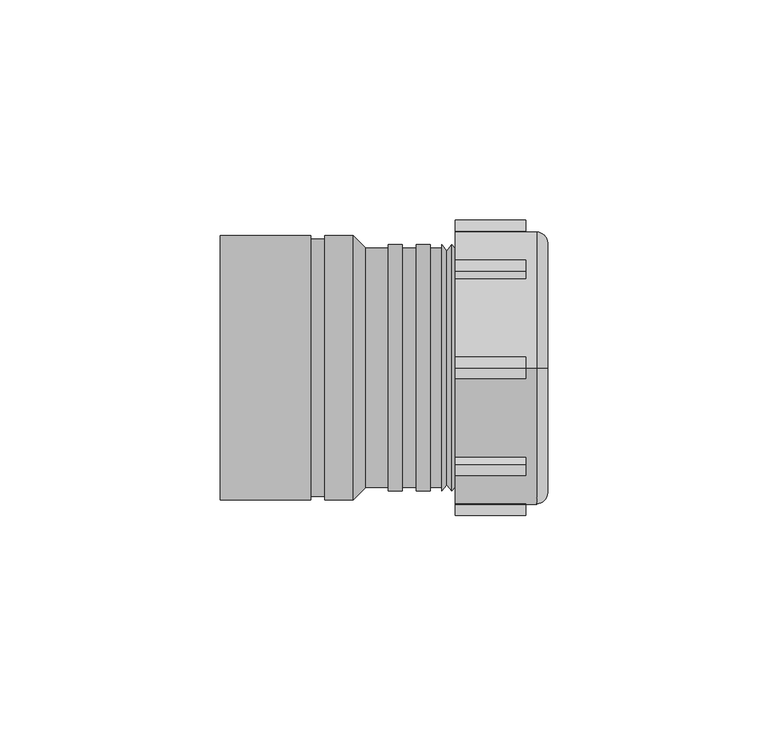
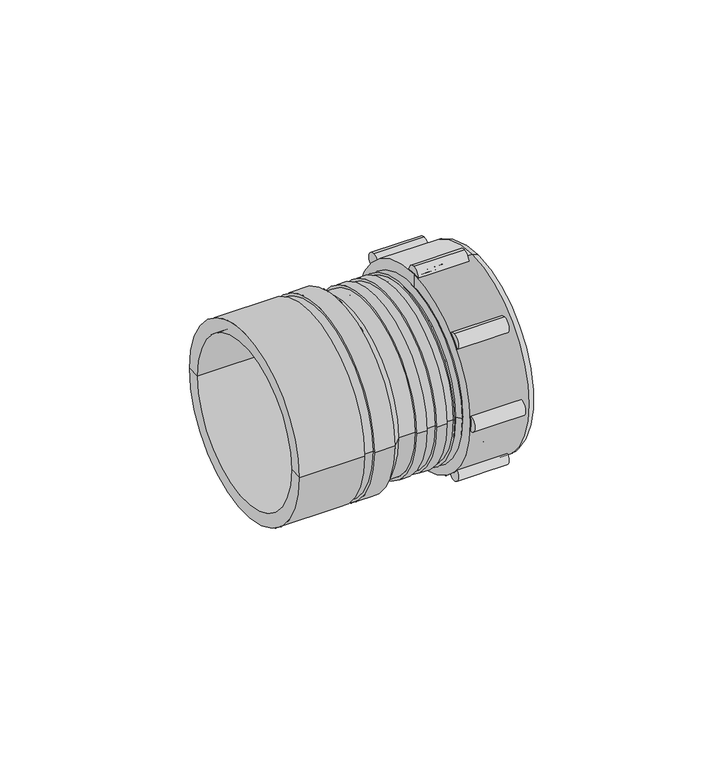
"""IFC4 building model written with IfcOpenShell, lengths in millimetres: pipe fitting geometry, Durapipe_PipeFitting_VulcatheneMechanical_ReducingCoupler_W39 : W3931_3Inxh x 1.5Inch_76mm x 38mm."""

from ifc_helpers import new_model, si_unit, point, frame, frame_2d, origin, place, context, project, spatial, polyline, circle_curve, ellipse_curve, trimmed, segment, composite_curve, outline, extrude, source, transform, mapped, element, save
from ifc_brep_helpers import plane_surface, cylinder_surface, revolved_surface, advanced_brep


def pipe_fitting_6c33db91(model_context):
    return source(origin(), model_context, "Body", "SolidModel", [
        advanced_brep(
        [(32.9, 18.5969083, 18.5969083), (32.9, 17.1119841, 17.1119841), (32.9, -17.1119841, -17.1119841), (32.9, -18.5969083, -18.5969083), (27.9, 18.3140656, 18.3140656), (27.9, -18.3140656, -18.3140656), (26.4, 18.1019336, 18.1019336), (27.9, 18.1019336, 18.1019336), (27.9, -18.1019336, -18.1019336), (26.4, -18.1019336, -18.1019336), (26.4, -17.1119841, -17.1119841), (26.4, 17.1119841, 17.1119841), (28.4, -17.1119841, -17.1119841), (28.4, 17.1119841, 17.1119841), (28.4, -16.5462987, -16.5462987), (28.4, 16.5462987, 16.5462987), (30.7, 17.1119841, 17.1119841), (30.7, 16.5462987, 16.5462987), (30.7, -16.5462987, -16.5462987), (30.7, -17.1119841, -17.1119841)],
        [
            (0, 1),
            (1, 2, circle_curve(frame((32.9, 0.0, 0.0), z_axis=(-1.0, 0.0, 0.0), x_axis=(0.0, -0.7071067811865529, -0.7071067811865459)), 24.2)),
            (2, 3),
            (3, 0, circle_curve(frame((32.9, 0.0, 0.0), z_axis=(1.0, 0.0, 0.0), x_axis=(0.0, -0.7071067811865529, -0.7071067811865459)), 26.3)),
            (2, 1, circle_curve(frame((32.9, 0.0, 0.0), z_axis=(-1.0, 0.0, 0.0), x_axis=(0.0, -0.7071067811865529, -0.7071067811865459)), 24.2)),
            (0, 3, circle_curve(frame((32.9, 0.0, 0.0), z_axis=(1.0, 0.0, 0.0), x_axis=(0.0, -0.7071067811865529, -0.7071067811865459)), 26.3)),
            (4, 0),
            (3, 5),
            (5, 4, circle_curve(frame((27.9, 0.0, 0.0), z_axis=(1.0, 0.0, 0.0), x_axis=(0.0, -0.7071067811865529, -0.7071067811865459)), 25.9)),
            (4, 5, circle_curve(frame((27.9, 0.0, 0.0), z_axis=(1.0, 0.0, 0.0), x_axis=(0.0, -0.7071067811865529, -0.7071067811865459)), 25.9)),
            (6, 7),
            (7, 8, circle_curve(frame((27.9, 0.0, 0.0), z_axis=(-1.0, 0.0, 0.0), x_axis=(0.0, -0.7071067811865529, -0.7071067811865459)), 25.6)),
            (8, 9),
            (9, 6, circle_curve(frame((26.4, 0.0, 0.0), z_axis=(1.0, 0.0, 0.0), x_axis=(0.0, -0.7071067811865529, -0.7071067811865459)), 25.6)),
            (8, 7, circle_curve(frame((27.9, 0.0, 0.0), z_axis=(-1.0, 0.0, 0.0), x_axis=(0.0, -0.7071067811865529, -0.7071067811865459)), 25.6)),
            (6, 9, circle_curve(frame((26.4, 0.0, 0.0), z_axis=(1.0, 0.0, 0.0), x_axis=(0.0, -0.7071067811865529, -0.7071067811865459)), 25.6)),
            (9, 10),
            (10, 11, circle_curve(frame((26.4, 0.0, 0.0), z_axis=(1.0, 0.0, 0.0), x_axis=(0.0, -0.7071067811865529, -0.7071067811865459)), 24.2)),
            (11, 6),
            (11, 10, circle_curve(frame((26.4, 0.0, 0.0), z_axis=(1.0, 0.0, 0.0), x_axis=(0.0, -0.7071067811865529, -0.7071067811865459)), 24.2)),
            (10, 12),
            (12, 13, circle_curve(frame((28.4, 0.0, 0.0), z_axis=(1.0, 0.0, 0.0), x_axis=(0.0, -0.7071067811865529, -0.7071067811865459)), 24.2)),
            (13, 11),
            (13, 12, circle_curve(frame((28.4, 0.0, 0.0), z_axis=(1.0, 0.0, 0.0), x_axis=(0.0, -0.7071067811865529, -0.7071067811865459)), 24.2)),
            (12, 14),
            (14, 15, circle_curve(frame((28.4, 0.0, 0.0), z_axis=(1.0, 0.0, 0.0), x_axis=(0.0, -0.7071067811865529, -0.7071067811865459)), 23.4)),
            (15, 13),
            (15, 14, circle_curve(frame((28.4, 0.0, 0.0), z_axis=(1.0, 0.0, 0.0), x_axis=(0.0, -0.7071067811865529, -0.7071067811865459)), 23.4)),
            (16, 17),
            (17, 18, circle_curve(frame((30.7, 0.0, 0.0), z_axis=(-1.0, 0.0, 0.0), x_axis=(0.0, -0.7071067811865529, -0.7071067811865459)), 23.4)),
            (18, 19),
            (19, 16, circle_curve(frame((30.7, 0.0, 0.0), z_axis=(1.0, 0.0, 0.0), x_axis=(0.0, -0.7071067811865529, -0.7071067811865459)), 24.2)),
            (18, 17, circle_curve(frame((30.7, 0.0, 0.0), z_axis=(-1.0, 0.0, 0.0), x_axis=(0.0, -0.7071067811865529, -0.7071067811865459)), 23.4)),
            (16, 19, circle_curve(frame((30.7, 0.0, 0.0), z_axis=(1.0, 0.0, 0.0), x_axis=(0.0, -0.7071067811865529, -0.7071067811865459)), 24.2)),
            (1, 16),
            (19, 2),
            (14, 18),
            (17, 15),
            (5, 8),
            (7, 4),
        ],
        [
            plane_surface(frame((32.9, 0.0, 0.0), z_axis=(1.0, 0.0, 0.0), x_axis=(0.0, -0.707106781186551, -0.707106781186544))),
            revolved_surface(polyline([(32.9, -18.5969083, -18.5969083), (27.9, -18.3140656, -18.3140656)]), (37.9, 0.0, 0.0), (-1.0000000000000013, 0.0, 0.0)),
            cylinder_surface(frame((24.3293443, 0.0, 0.0), z_axis=(-1.0000000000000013, 0.0, 0.0), x_axis=(0.0, -0.7071067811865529, -0.7071067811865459)), 25.6),
            plane_surface(frame((26.4, 0.0, 0.0), z_axis=(-1.0, 0.0, 0.0), x_axis=(0.0, -0.707106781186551, -0.707106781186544))),
            revolved_surface(polyline([(26.400000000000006, -17.11198410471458, -17.11198410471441), (28.400000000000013, -17.11198410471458, -17.11198410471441)]), (22.907009, 0.0, 0.0), (-1.0000000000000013, 0.0, 0.0)),
            plane_surface(frame((28.4, 0.0, 0.0), z_axis=(-1.0, 0.0, 0.0), x_axis=(0.0, -0.707106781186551, -0.707106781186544))),
            plane_surface(frame((30.7, 0.0, 0.0), z_axis=(1.0, 0.0, 0.0), x_axis=(0.0, -0.707106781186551, -0.707106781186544))),
            revolved_surface(polyline([(30.69999999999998, -17.11198410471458, -17.11198410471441), (32.899999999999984, -17.11198410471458, -17.11198410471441)]), (37.9, 0.0, 0.0), (-1.0000000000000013, 0.0, 0.0)),
            revolved_surface(polyline([(28.399999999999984, -16.546298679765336, -16.546298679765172), (30.69999999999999, -16.546298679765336, -16.546298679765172)]), (34.4661924, 0.0, 0.0), (-1.0000000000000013, 0.0, 0.0)),
            plane_surface(frame((27.9, 0.0, 0.0), z_axis=(-1.0, 0.0, 0.0), x_axis=(0.0, -0.707106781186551, -0.707106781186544))),
        ],
        [
            (0, [[1, 2, 3, 4]]),
            (0, [[5, -1, 6, -3]]),
            (1, [[7, -4, 8, 9]]),
            (1, [[-8, -6, -7, 10]]),
            (2, [[11, 12, 13, 14]]),
            (2, [[15, -11, 16, -13]]),
            (3, [[17, 18, 19, -14]]),
            (3, [[-19, 20, -17, -16]]),
            (4, [[-18, 21, 22, 23]]),
            (4, [[24, -21, -20, -23]]),
            (5, [[25, 26, 27, -22]]),
            (5, [[-27, 28, -25, -24]]),
            (6, [[29, 30, 31, 32]]),
            (6, [[-31, 33, -29, 34]]),
            (7, [[35, -32, 36, -2]]),
            (7, [[-36, -34, -35, -5]]),
            (8, [[-26, 37, -30, 38]]),
            (8, [[-33, -37, -28, -38]]),
            (9, [[39, -12, 40, -9]]),
            (9, [[-40, -15, -39, -10]]),
        ],
    ),
        advanced_brep(
        [(16.2, 0.0, 31.0), (34.6, 0.0, 31.0), (34.6, 0.0, -31.0), (16.2, 0.0, -31.0), (16.2, 0.0, 26.0), (16.2, 0.0, -26.0), (37.1, 0.0, 28.5), (37.1, 0.0, 24.0), (37.1, 0.0, -24.0), (37.1, 0.0, -28.5), (32.9, 0.0, 26.0), (32.9, 0.0, -26.0), (32.9, 0.0, 24.0), (32.9, 0.0, -24.0)],
        [
            (0, 1),
            (1, 2, circle_curve(frame((34.6, 0.0, 0.0), z_axis=(-1.0, 0.0, 0.0), x_axis=(0.0, 0.0, -1.0000000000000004)), 31.0)),
            (2, 3),
            (3, 0, circle_curve(frame((16.2, 0.0, 0.0), z_axis=(1.0, 0.0, 0.0), x_axis=(0.0, 0.0, -1.0000000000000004)), 31.0)),
            (2, 1, circle_curve(frame((34.6, 0.0, 0.0), z_axis=(-1.0, 0.0, 0.0), x_axis=(0.0, 0.0, -1.0000000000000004)), 31.0)),
            (0, 3, circle_curve(frame((16.2, 0.0, 0.0), z_axis=(1.0, 0.0, 0.0), x_axis=(0.0, 0.0, -1.0000000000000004)), 31.0)),
            (4, 0),
            (3, 5),
            (5, 4, circle_curve(frame((16.2, 0.0, 0.0), z_axis=(1.0, 0.0, 0.0), x_axis=(0.0, 0.0, -1.0000000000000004)), 26.0)),
            (4, 5, circle_curve(frame((16.2, 0.0, 0.0), z_axis=(1.0, 0.0, 0.0), x_axis=(0.0, 0.0, -1.0000000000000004)), 26.0)),
            (6, 7),
            (7, 8, circle_curve(frame((37.1, 0.0, 0.0), z_axis=(-1.0, 0.0, 0.0), x_axis=(0.0, 0.0, -1.0000000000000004)), 24.0)),
            (8, 9),
            (9, 6, circle_curve(frame((37.1, 0.0, 0.0), z_axis=(1.0, 0.0, 0.0), x_axis=(0.0, 0.0, -1.0000000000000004)), 28.5)),
            (8, 7, circle_curve(frame((37.1, 0.0, 0.0), z_axis=(-1.0, 0.0, 0.0), x_axis=(0.0, 0.0, -1.0000000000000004)), 24.0)),
            (6, 9, circle_curve(frame((37.1, 0.0, 0.0), z_axis=(1.0, 0.0, 0.0), x_axis=(0.0, 0.0, -1.0000000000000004)), 28.5)),
            (1, 6, circle_curve(frame((34.6, 0.0, 28.5), z_axis=(0.0, 1.0000000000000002, 0.0), x_axis=(1.0000000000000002, 0.0, 0.0)), 2.5)),
            (9, 2, circle_curve(frame((34.6, 0.0, -28.5), z_axis=(0.0, 1.0000000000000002, 0.0), x_axis=(1.0000000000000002, 0.0, 0.0)), 2.5)),
            (10, 4),
            (5, 11),
            (11, 10, circle_curve(frame((32.9, 0.0, 0.0), z_axis=(1.0, 0.0, 0.0), x_axis=(0.0, 0.0, -1.0000000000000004)), 26.0)),
            (10, 11, circle_curve(frame((32.9, 0.0, 0.0), z_axis=(1.0, 0.0, 0.0), x_axis=(0.0, 0.0, -1.0000000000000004)), 26.0)),
            (12, 10),
            (11, 13),
            (13, 12, circle_curve(frame((32.9, 0.0, 0.0), z_axis=(1.0, 0.0, 0.0), x_axis=(0.0, 0.0, -1.0000000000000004)), 24.0)),
            (12, 13, circle_curve(frame((32.9, 0.0, 0.0), z_axis=(1.0, 0.0, 0.0), x_axis=(0.0, 0.0, -1.0000000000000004)), 24.0)),
            (7, 12),
            (13, 8),
        ],
        [
            cylinder_surface(frame((1597.9018184, 0.0, 0.0), z_axis=(-1.0000000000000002, 0.0, 0.0), x_axis=(0.0, 0.0, -1.0000000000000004)), 31.0),
            plane_surface(frame((16.2, 0.0, 0.0), z_axis=(-1.0, 0.0, 0.0), x_axis=(0.0, 0.0, -1.0))),
            plane_surface(frame((37.1, 0.0, 0.0), z_axis=(1.0, 0.0, 0.0), x_axis=(0.0, 0.0, -1.0))),
            revolved_surface(trimmed(ellipse_curve(frame((34.6, 0.0, -28.5), z_axis=(0.0, 1.0000000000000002, 0.0), x_axis=(1.0000000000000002, 0.0, 0.0)), 2.5, 2.5), [point((37.1, 0.0, -28.5))], [point((34.6, 0.0, -31.0))], True, "CARTESIAN"), (1597.9018184, 0.0, 0.0), (-1.0000000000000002, 0.0, 0.0)),
            revolved_surface(polyline([(16.199999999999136, 0.0, -26.00000000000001), (32.89999999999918, 0.0, -26.00000000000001)]), (1597.9018184, 0.0, 0.0), (-1.0000000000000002, 0.0, 0.0)),
            plane_surface(frame((32.9, 0.0, 0.0), z_axis=(-1.0, 0.0, 0.0), x_axis=(0.0, 0.0, -1.0))),
            revolved_surface(polyline([(32.89999999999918, 0.0, -24.00000000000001), (37.099999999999, 0.0, -24.00000000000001)]), (1597.9018184, 0.0, 0.0), (-1.0000000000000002, 0.0, 0.0)),
        ],
        [
            (0, [[1, 2, 3, 4]]),
            (0, [[-3, 5, -1, 6]]),
            (1, [[7, -4, 8, 9]]),
            (1, [[-8, -6, -7, 10]]),
            (2, [[11, 12, 13, 14]]),
            (2, [[-13, 15, -11, 16]]),
            (3, [[17, -14, 18, -2]]),
            (3, [[-18, -16, -17, -5]]),
            (4, [[19, -9, 20, 21]]),
            (4, [[-20, -10, -19, 22]]),
            (5, [[23, -21, 24, 25]]),
            (5, [[-24, -22, -23, 26]]),
            (6, [[27, -25, 28, -12]]),
            (6, [[-28, -26, -27, -15]]),
        ],
    ),
        extrude(outline(composite_curve([segment(trimmed(circle_curve(frame_2d((-31.0, 0.0)), 2.5), [point((-31.0, 2.5))], [point((-31.0, -2.5))], False, "CARTESIAN"), True, "CONTINUOUS"), segment(trimmed(circle_curve(frame_2d((-31.0, 0.0)), 2.5), [point((-31.0, -2.5))], [point((-31.0, 2.5))], False, "CARTESIAN"), True, "CONTINUOUS")], self_intersect=False)), frame((16.2, 0.0, 0.0), z_axis=(1.0, 0.0, 0.0), x_axis=(0.0, 1.0, 0.0)), (0.0, 0.0, 1.0), 15.9),
        extrude(outline(composite_curve([segment(trimmed(circle_curve(frame_2d((-21.9203102, -21.9203102)), 2.5), [point((-21.9203102, -19.4203102))], [point((-21.9203102, -24.4203102))], False, "CARTESIAN"), True, "CONTINUOUS"), segment(trimmed(circle_curve(frame_2d((-21.9203102, -21.9203102)), 2.5), [point((-21.9203102, -24.4203102))], [point((-21.9203102, -19.4203102))], False, "CARTESIAN"), True, "CONTINUOUS")], self_intersect=False)), frame((16.2, 0.0, 0.0), z_axis=(1.0, 0.0, 0.0), x_axis=(0.0, 1.0, 0.0)), (0.0, 0.0, 1.0), 15.9),
        extrude(outline(composite_curve([segment(trimmed(circle_curve(frame_2d((0.0, -31.0)), 2.5), [point((0.0, -28.5))], [point((0.0, -33.5))], False, "CARTESIAN"), True, "CONTINUOUS"), segment(trimmed(circle_curve(frame_2d((0.0, -31.0)), 2.5), [point((0.0, -33.5))], [point((0.0, -28.5))], False, "CARTESIAN"), True, "CONTINUOUS")], self_intersect=False)), frame((16.2, 0.0, 0.0), z_axis=(1.0, 0.0, 0.0), x_axis=(0.0, 1.0, 0.0)), (0.0, 0.0, 1.0), 15.9),
        extrude(outline(composite_curve([segment(trimmed(circle_curve(frame_2d((21.9203102, -21.9203102)), 2.5), [point((21.9203102, -19.4203102))], [point((21.9203102, -24.4203102))], False, "CARTESIAN"), True, "CONTINUOUS"), segment(trimmed(circle_curve(frame_2d((21.9203102, -21.9203102)), 2.5), [point((21.9203102, -24.4203102))], [point((21.9203102, -19.4203102))], False, "CARTESIAN"), True, "CONTINUOUS")], self_intersect=False)), frame((16.2, 0.0, 0.0), z_axis=(1.0, 0.0, 0.0), x_axis=(0.0, 1.0, 0.0)), (0.0, 0.0, 1.0), 15.9),
        extrude(outline(composite_curve([segment(trimmed(circle_curve(frame_2d((31.0, 0.0)), 2.5), [point((31.0, 2.5))], [point((31.0, -2.5))], False, "CARTESIAN"), True, "CONTINUOUS"), segment(trimmed(circle_curve(frame_2d((31.0, 0.0)), 2.5), [point((31.0, -2.5))], [point((31.0, 2.5))], False, "CARTESIAN"), True, "CONTINUOUS")], self_intersect=False)), frame((16.2, 0.0, 0.0), z_axis=(1.0, 0.0, 0.0), x_axis=(0.0, 1.0, 0.0)), (0.0, 0.0, 1.0), 15.9),
        extrude(outline(composite_curve([segment(trimmed(circle_curve(frame_2d((21.9203102, 21.9203102)), 2.5), [point((21.9203102, 24.4203102))], [point((21.9203102, 19.4203102))], False, "CARTESIAN"), True, "CONTINUOUS"), segment(trimmed(circle_curve(frame_2d((21.9203102, 21.9203102)), 2.5), [point((21.9203102, 19.4203102))], [point((21.9203102, 24.4203102))], False, "CARTESIAN"), True, "CONTINUOUS")], self_intersect=False)), frame((16.2, 0.0, 0.0), z_axis=(1.0, 0.0, 0.0), x_axis=(0.0, 1.0, 0.0)), (0.0, 0.0, 1.0), 15.9),
        extrude(outline(composite_curve([segment(trimmed(circle_curve(frame_2d((0.0, 31.0)), 2.5), [point((0.0, 33.5))], [point((0.0, 28.5))], False, "CARTESIAN"), True, "CONTINUOUS"), segment(trimmed(circle_curve(frame_2d((0.0, 31.0)), 2.5), [point((0.0, 28.5))], [point((0.0, 33.5))], False, "CARTESIAN"), True, "CONTINUOUS")], self_intersect=False)), frame((16.2, 0.0, 0.0), z_axis=(1.0, 0.0, 0.0), x_axis=(0.0, 1.0, 0.0)), (0.0, 0.0, 1.0), 15.9),
        extrude(outline(composite_curve([segment(trimmed(circle_curve(frame_2d((-21.9203102, 21.9203102)), 2.5), [point((-21.9203102, 24.4203102))], [point((-21.9203102, 19.4203102))], False, "CARTESIAN"), True, "CONTINUOUS"), segment(trimmed(circle_curve(frame_2d((-21.9203102, 21.9203102)), 2.5), [point((-21.9203102, 19.4203102))], [point((-21.9203102, 24.4203102))], False, "CARTESIAN"), True, "CONTINUOUS")], self_intersect=False)), frame((16.2, 0.0, 0.0), z_axis=(1.0, 0.0, 0.0), x_axis=(0.0, 1.0, 0.0)), (0.0, 0.0, 1.0), 15.9),
        advanced_brep(
        [(16.15, -27.0170866, 0.0), (16.15, 27.0170866, 0.0), (16.15, 24.2697, 0.0), (16.15, -24.2697, 0.0), (15.375, -27.99, 0.0), (15.375, 27.99, 0.0), (14.2204545, -26.52, 0.0), (14.2204545, 26.52, 0.0), (13.0659091, -27.9693842, 0.0), (13.0659091, 27.9693842, 0.0), (13.0659091, -27.1693842, 0.0), (13.0659091, 27.1693842, 0.0), (10.525, -27.1693842, 0.0), (10.525, 27.1693842, 0.0), (10.525, -27.9908, 0.0), (10.525, 27.9908, 0.0), (7.35, -27.9908, 0.0), (7.35, 27.9908, 0.0), (7.35, -27.1908, 0.0), (7.35, 27.1908, 0.0), (4.175, -27.1908, 0.0), (4.175, 27.1908, 0.0), (4.175, -27.9908, 0.0), (4.175, 27.9908, 0.0), (1.0, -27.9908, 0.0), (1.0, 27.9908, 0.0), (1.0, -27.1908, 0.0), (1.0, 27.1908, 0.0), (-4.1283, -27.1908, 0.0), (-4.1283, 27.1908, 0.0), (-6.9375, -30.0, 0.0), (-6.9375, 30.0, 0.0), (-13.4, -30.0, 0.0), (-13.4, 30.0, 0.0), (-13.4, -29.2, 0.0), (-13.4, 29.2, 0.0), (-16.6, -29.2, 0.0), (-16.6, 29.2, 0.0), (-16.6, -30.0, 0.0), (-16.6, 30.0, 0.0), (-37.1, -30.0, 0.0), (-37.1, 30.0, 0.0), (-37.1, -25.796875, 0.0), (-37.1, 25.796875, 0.0), (-10.1125, -25.796875, 0.0), (-10.1125, 25.796875, 0.0), (-8.326625, -24.011, 0.0), (-8.326625, 24.011, 0.0), (4.175, -24.011, 0.0), (4.175, 24.011, 0.0), (4.175, -22.225, 0.0), (4.175, 22.225, 0.0), (6.969, -22.225, 0.0), (6.969, 22.225, 0.0), (6.969, -24.2697, 0.0), (6.969, 24.2697, 0.0)],
        [
            (0, 1, circle_curve(frame((16.15, 0.0, 0.0), z_axis=(1.0, 0.0, 0.0), x_axis=(0.0, 1.0, 0.0)), 27.0170866)),
            (1, 2),
            (2, 3, circle_curve(frame((16.15, 0.0, 0.0), z_axis=(-1.0, 0.0, 0.0), x_axis=(0.0, 1.0, 0.0)), 24.2697)),
            (3, 0),
            (1, 0, circle_curve(frame((16.15, 0.0, 0.0), z_axis=(1.0, 0.0, 0.0), x_axis=(0.0, 1.0, 0.0)), 27.0170866)),
            (3, 2, circle_curve(frame((16.15, 0.0, 0.0), z_axis=(-1.0, 0.0, 0.0), x_axis=(0.0, 1.0, 0.0)), 24.2697)),
            (4, 5, circle_curve(frame((15.375, 0.0, 0.0), z_axis=(1.0, 0.0, 0.0), x_axis=(0.0, 1.0, 0.0)), 27.99)),
            (5, 1),
            (0, 4),
            (5, 4, circle_curve(frame((15.375, 0.0, 0.0), z_axis=(1.0, 0.0, 0.0), x_axis=(0.0, 1.0, 0.0)), 27.99)),
            (6, 7, circle_curve(frame((14.2204545, 0.0, 0.0), z_axis=(1.0, 0.0, 0.0), x_axis=(0.0, 1.0, 0.0)), 26.52)),
            (7, 5),
            (4, 6),
            (7, 6, circle_curve(frame((14.2204545, 0.0, 0.0), z_axis=(1.0, 0.0, 0.0), x_axis=(0.0, 1.0, 0.0)), 26.52)),
            (8, 9, circle_curve(frame((13.0659091, 0.0, 0.0), z_axis=(1.0, 0.0, 0.0), x_axis=(0.0, 1.0, 0.0)), 27.9693842)),
            (9, 7),
            (6, 8),
            (9, 8, circle_curve(frame((13.0659091, 0.0, 0.0), z_axis=(1.0, 0.0, 0.0), x_axis=(0.0, 1.0, 0.0)), 27.9693842)),
            (10, 11, circle_curve(frame((13.0659091, 0.0, 0.0), z_axis=(1.0, 0.0, 0.0), x_axis=(0.0, 1.0, 0.0)), 27.1693842)),
            (11, 9),
            (8, 10),
            (11, 10, circle_curve(frame((13.0659091, 0.0, 0.0), z_axis=(1.0, 0.0, 0.0), x_axis=(0.0, 1.0, 0.0)), 27.1693842)),
            (12, 13, circle_curve(frame((10.525, 0.0, 0.0), z_axis=(1.0, 0.0, 0.0), x_axis=(0.0, 1.0, 0.0)), 27.1693842)),
            (13, 11),
            (10, 12),
            (13, 12, circle_curve(frame((10.525, 0.0, 0.0), z_axis=(1.0, 0.0, 0.0), x_axis=(0.0, 1.0, 0.0)), 27.1693842)),
            (14, 15, circle_curve(frame((10.525, 0.0, 0.0), z_axis=(1.0, 0.0, 0.0), x_axis=(0.0, 1.0, 0.0)), 27.9908)),
            (15, 13),
            (12, 14),
            (15, 14, circle_curve(frame((10.525, 0.0, 0.0), z_axis=(1.0, 0.0, 0.0), x_axis=(0.0, 1.0, 0.0)), 27.9908)),
            (16, 17, circle_curve(frame((7.35, 0.0, 0.0), z_axis=(1.0, 0.0, 0.0), x_axis=(0.0, 1.0, 0.0)), 27.9908)),
            (17, 15),
            (14, 16),
            (17, 16, circle_curve(frame((7.35, 0.0, 0.0), z_axis=(1.0, 0.0, 0.0), x_axis=(0.0, 1.0, 0.0)), 27.9908)),
            (18, 19, circle_curve(frame((7.35, 0.0, 0.0), z_axis=(1.0, 0.0, 0.0), x_axis=(0.0, 1.0, 0.0)), 27.1908)),
            (19, 17),
            (16, 18),
            (19, 18, circle_curve(frame((7.35, 0.0, 0.0), z_axis=(1.0, 0.0, 0.0), x_axis=(0.0, 1.0, 0.0)), 27.1908)),
            (20, 21, circle_curve(frame((4.175, 0.0, 0.0), z_axis=(1.0, 0.0, 0.0), x_axis=(0.0, 1.0, 0.0)), 27.1908)),
            (21, 19),
            (18, 20),
            (21, 20, circle_curve(frame((4.175, 0.0, 0.0), z_axis=(1.0, 0.0, 0.0), x_axis=(0.0, 1.0, 0.0)), 27.1908)),
            (22, 23, circle_curve(frame((4.175, 0.0, 0.0), z_axis=(1.0, 0.0, 0.0), x_axis=(0.0, 1.0, 0.0)), 27.9908)),
            (23, 21),
            (20, 22),
            (23, 22, circle_curve(frame((4.175, 0.0, 0.0), z_axis=(1.0, 0.0, 0.0), x_axis=(0.0, 1.0, 0.0)), 27.9908)),
            (24, 25, circle_curve(frame((1.0, 0.0, 0.0), z_axis=(1.0, 0.0, 0.0), x_axis=(0.0, 1.0, 0.0)), 27.9908)),
            (25, 23),
            (22, 24),
            (25, 24, circle_curve(frame((1.0, 0.0, 0.0), z_axis=(1.0, 0.0, 0.0), x_axis=(0.0, 1.0, 0.0)), 27.9908)),
            (26, 27, circle_curve(frame((1.0, 0.0, 0.0), z_axis=(1.0, 0.0, 0.0), x_axis=(0.0, 1.0, 0.0)), 27.1908)),
            (27, 25),
            (24, 26),
            (27, 26, circle_curve(frame((1.0, 0.0, 0.0), z_axis=(1.0, 0.0, 0.0), x_axis=(0.0, 1.0, 0.0)), 27.1908)),
            (28, 29, circle_curve(frame((-4.1283, 0.0, 0.0), z_axis=(1.0, 0.0, 0.0), x_axis=(0.0, 1.0, 0.0)), 27.1908)),
            (29, 27),
            (26, 28),
            (29, 28, circle_curve(frame((-4.1283, 0.0, 0.0), z_axis=(1.0, 0.0, 0.0), x_axis=(0.0, 1.0, 0.0)), 27.1908)),
            (30, 31, circle_curve(frame((-6.9375, 0.0, 0.0), z_axis=(1.0, 0.0, 0.0), x_axis=(0.0, 1.0, 0.0)), 30.0)),
            (31, 29),
            (28, 30),
            (31, 30, circle_curve(frame((-6.9375, 0.0, 0.0), z_axis=(1.0, 0.0, 0.0), x_axis=(0.0, 1.0, 0.0)), 30.0)),
            (32, 33, circle_curve(frame((-13.4, 0.0, 0.0), z_axis=(1.0, 0.0, 0.0), x_axis=(0.0, 1.0, 0.0)), 30.0)),
            (33, 31),
            (30, 32),
            (33, 32, circle_curve(frame((-13.4, 0.0, 0.0), z_axis=(1.0, 0.0, 0.0), x_axis=(0.0, 1.0, 0.0)), 30.0)),
            (34, 35, circle_curve(frame((-13.4, 0.0, 0.0), z_axis=(1.0, 0.0, 0.0), x_axis=(0.0, 1.0, 0.0)), 29.2)),
            (35, 33),
            (32, 34),
            (35, 34, circle_curve(frame((-13.4, 0.0, 0.0), z_axis=(1.0, 0.0, 0.0), x_axis=(0.0, 1.0, 0.0)), 29.2)),
            (36, 37, circle_curve(frame((-16.6, 0.0, 0.0), z_axis=(1.0, 0.0, 0.0), x_axis=(0.0, 1.0, 0.0)), 29.2)),
            (37, 35),
            (34, 36),
            (37, 36, circle_curve(frame((-16.6, 0.0, 0.0), z_axis=(1.0, 0.0, 0.0), x_axis=(0.0, 1.0, 0.0)), 29.2)),
            (38, 39, circle_curve(frame((-16.6, 0.0, 0.0), z_axis=(1.0, 0.0, 0.0), x_axis=(0.0, 1.0, 0.0)), 30.0)),
            (39, 37),
            (36, 38),
            (39, 38, circle_curve(frame((-16.6, 0.0, 0.0), z_axis=(1.0, 0.0, 0.0), x_axis=(0.0, 1.0, 0.0)), 30.0)),
            (40, 41, circle_curve(frame((-37.1, 0.0, 0.0), z_axis=(1.0, 0.0, 0.0), x_axis=(0.0, 1.0, 0.0)), 30.0)),
            (41, 39),
            (38, 40),
            (41, 40, circle_curve(frame((-37.1, 0.0, 0.0), z_axis=(1.0, 0.0, 0.0), x_axis=(0.0, 1.0, 0.0)), 30.0)),
            (42, 43, circle_curve(frame((-37.1, 0.0, 0.0), z_axis=(1.0, 0.0, 0.0), x_axis=(0.0, 1.0, 0.0)), 25.796875)),
            (43, 41),
            (40, 42),
            (43, 42, circle_curve(frame((-37.1, 0.0, 0.0), z_axis=(1.0, 0.0, 0.0), x_axis=(0.0, 1.0, 0.0)), 25.796875)),
            (44, 45, circle_curve(frame((-10.1125, 0.0, 0.0), z_axis=(1.0, 0.0, 0.0), x_axis=(0.0, 1.0, 0.0)), 25.796875)),
            (45, 43),
            (42, 44),
            (45, 44, circle_curve(frame((-10.1125, 0.0, 0.0), z_axis=(1.0, 0.0, 0.0), x_axis=(0.0, 1.0, 0.0)), 25.796875)),
            (46, 47, circle_curve(frame((-8.326625, 0.0, 0.0), z_axis=(1.0, 0.0, 0.0), x_axis=(0.0, 1.0, 0.0)), 24.011)),
            (47, 45),
            (44, 46),
            (47, 46, circle_curve(frame((-8.326625, 0.0, 0.0), z_axis=(1.0, 0.0, 0.0), x_axis=(0.0, 1.0, 0.0)), 24.011)),
            (48, 49, circle_curve(frame((4.175, 0.0, 0.0), z_axis=(1.0, 0.0, 0.0), x_axis=(0.0, 1.0, 0.0)), 24.011)),
            (49, 47),
            (46, 48),
            (49, 48, circle_curve(frame((4.175, 0.0, 0.0), z_axis=(1.0, 0.0, 0.0), x_axis=(0.0, 1.0, 0.0)), 24.011)),
            (50, 51, circle_curve(frame((4.175, 0.0, 0.0), z_axis=(1.0, 0.0, 0.0), x_axis=(0.0, 1.0, 0.0)), 22.225)),
            (51, 49),
            (48, 50),
            (51, 50, circle_curve(frame((4.175, 0.0, 0.0), z_axis=(1.0, 0.0, 0.0), x_axis=(0.0, 1.0, 0.0)), 22.225)),
            (52, 53, circle_curve(frame((6.969, 0.0, 0.0), z_axis=(1.0, 0.0, 0.0), x_axis=(0.0, 1.0, 0.0)), 22.225)),
            (53, 51),
            (50, 52),
            (53, 52, circle_curve(frame((6.969, 0.0, 0.0), z_axis=(1.0, 0.0, 0.0), x_axis=(0.0, 1.0, 0.0)), 22.225)),
            (54, 55, circle_curve(frame((6.969, 0.0, 0.0), z_axis=(1.0, 0.0, 0.0), x_axis=(0.0, 1.0, 0.0)), 24.2697)),
            (55, 53),
            (52, 54),
            (55, 54, circle_curve(frame((6.969, 0.0, 0.0), z_axis=(1.0, 0.0, 0.0), x_axis=(0.0, 1.0, 0.0)), 24.2697)),
            (2, 55),
            (54, 3),
        ],
        [
            plane_surface(frame((16.15, 0.0, 0.0), z_axis=(1.0, 0.0, 0.0), x_axis=(0.0, 1.0, 0.0))),
            revolved_surface(polyline([(16.15, 27.0170866, 0.0), (15.375, 27.99, 0.0)]), (-58.3283066, 0.0, 0.0), (-1.0, 0.0, 0.0)),
            revolved_surface(polyline([(15.375, 27.99, 0.0), (14.2204545, 26.52, 0.0)]), (-58.3283066, 0.0, 0.0), (-1.0, 0.0, 0.0)),
            revolved_surface(polyline([(14.2204545, 26.52, 0.0), (13.0659091, 27.9693842, 0.0)]), (-58.3283066, 0.0, 0.0), (-1.0, 0.0, 0.0)),
            plane_surface(frame((13.0659091, 0.0, 0.0), z_axis=(-1.0, 0.0, 0.0), x_axis=(0.0, 1.0, 0.0))),
            cylinder_surface(frame((-58.3283066, 0.0, 0.0), z_axis=(-1.0, 0.0, 0.0), x_axis=(0.0, 1.0, 0.0)), 27.1693842),
            plane_surface(frame((10.525, 0.0, 0.0), z_axis=(1.0, 0.0, 0.0), x_axis=(0.0, 1.0, 0.0))),
            cylinder_surface(frame((-58.3283066, 0.0, 0.0), z_axis=(-1.0, 0.0, 0.0), x_axis=(0.0, 1.0, 0.0)), 27.9908),
            plane_surface(frame((7.35, 0.0, 0.0), z_axis=(-1.0, 0.0, 0.0), x_axis=(0.0, 1.0, 0.0))),
            cylinder_surface(frame((-58.3283066, 0.0, 0.0), z_axis=(-1.0, 0.0, 0.0), x_axis=(0.0, 1.0, 0.0)), 27.1908),
            plane_surface(frame((4.175, 0.0, 0.0), z_axis=(1.0, 0.0, 0.0), x_axis=(0.0, 1.0, 0.0))),
            plane_surface(frame((1.0, 0.0, 0.0), z_axis=(-1.0, 0.0, 0.0), x_axis=(0.0, 1.0, 0.0))),
            revolved_surface(polyline([(-4.1283, 27.1908, 0.0), (-6.9375, 30.0, 0.0)]), (-58.3283066, 0.0, 0.0), (-1.0, 0.0, 0.0)),
            cylinder_surface(frame((-58.3283066, 0.0, 0.0), z_axis=(-1.0, 0.0, 0.0), x_axis=(0.0, 1.0, 0.0)), 30.0),
            plane_surface(frame((-13.4, 0.0, 0.0), z_axis=(-1.0, 0.0, 0.0), x_axis=(0.0, 1.0, 0.0))),
            cylinder_surface(frame((-58.3283066, 0.0, 0.0), z_axis=(-1.0, 0.0, 0.0), x_axis=(0.0, 1.0, 0.0)), 29.2),
            plane_surface(frame((-16.6, 0.0, 0.0), z_axis=(1.0, 0.0, 0.0), x_axis=(0.0, 1.0, 0.0))),
            plane_surface(frame((-37.1, 0.0, 0.0), z_axis=(-1.0, 0.0, 0.0), x_axis=(0.0, 1.0, 0.0))),
            revolved_surface(polyline([(-37.1, 25.796875, 0.0), (-10.112500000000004, 25.796875, 0.0)]), (-58.3283066, 0.0, 0.0), (-1.0, 0.0, 0.0)),
            revolved_surface(polyline([(-10.1125, 25.796875, 0.0), (-8.326625, 24.011, 0.0)]), (-58.3283066, 0.0, 0.0), (-1.0, 0.0, 0.0)),
            revolved_surface(polyline([(-8.326625, 24.011, 0.0), (4.174999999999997, 24.011, 0.0)]), (-58.3283066, 0.0, 0.0), (-1.0, 0.0, 0.0)),
            plane_surface(frame((4.175, 0.0, 0.0), z_axis=(-1.0, 0.0, 0.0), x_axis=(0.0, 1.0, 0.0))),
            revolved_surface(polyline([(4.174999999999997, 22.225, 0.0), (6.969000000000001, 22.225, 0.0)]), (-58.3283066, 0.0, 0.0), (-1.0, 0.0, 0.0)),
            plane_surface(frame((6.969, 0.0, 0.0), z_axis=(1.0, 0.0, 0.0), x_axis=(0.0, 1.0, 0.0))),
            revolved_surface(polyline([(6.969000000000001, 24.2697, 0.0), (16.15, 24.2697, 0.0)]), (-58.3283066, 0.0, 0.0), (-1.0, 0.0, 0.0)),
        ],
        [
            (0, [[1, 2, 3, 4]]),
            (0, [[5, -4, 6, -2]]),
            (1, [[7, 8, -1, 9]]),
            (1, [[10, -9, -5, -8]]),
            (2, [[11, 12, -7, 13]]),
            (2, [[14, -13, -10, -12]]),
            (3, [[15, 16, -11, 17]]),
            (3, [[18, -17, -14, -16]]),
            (4, [[19, 20, -15, 21]]),
            (4, [[22, -21, -18, -20]]),
            (5, [[23, 24, -19, 25]]),
            (5, [[26, -25, -22, -24]]),
            (6, [[27, 28, -23, 29]]),
            (6, [[30, -29, -26, -28]]),
            (7, [[31, 32, -27, 33]]),
            (7, [[34, -33, -30, -32]]),
            (8, [[35, 36, -31, 37]]),
            (8, [[38, -37, -34, -36]]),
            (9, [[39, 40, -35, 41]]),
            (9, [[42, -41, -38, -40]]),
            (10, [[43, 44, -39, 45]]),
            (10, [[46, -45, -42, -44]]),
            (7, [[47, 48, -43, 49]]),
            (7, [[50, -49, -46, -48]]),
            (11, [[51, 52, -47, 53]]),
            (11, [[54, -53, -50, -52]]),
            (9, [[55, 56, -51, 57]]),
            (9, [[58, -57, -54, -56]]),
            (12, [[59, 60, -55, 61]]),
            (12, [[62, -61, -58, -60]]),
            (13, [[63, 64, -59, 65]]),
            (13, [[66, -65, -62, -64]]),
            (14, [[67, 68, -63, 69]]),
            (14, [[70, -69, -66, -68]]),
            (15, [[71, 72, -67, 73]]),
            (15, [[74, -73, -70, -72]]),
            (16, [[75, 76, -71, 77]]),
            (16, [[78, -77, -74, -76]]),
            (13, [[79, 80, -75, 81]]),
            (13, [[82, -81, -78, -80]]),
            (17, [[83, 84, -79, 85]]),
            (17, [[86, -85, -82, -84]]),
            (18, [[87, 88, -83, 89]]),
            (18, [[90, -89, -86, -88]]),
            (19, [[91, 92, -87, 93]]),
            (19, [[94, -93, -90, -92]]),
            (20, [[95, 96, -91, 97]]),
            (20, [[98, -97, -94, -96]]),
            (21, [[99, 100, -95, 101]]),
            (21, [[102, -101, -98, -100]]),
            (22, [[103, 104, -99, 105]]),
            (22, [[106, -105, -102, -104]]),
            (23, [[107, 108, -103, 109]]),
            (23, [[110, -109, -106, -108]]),
            (24, [[-3, 111, -107, 112]]),
            (24, [[-6, -112, -110, -111]]),
        ],
    ),
    ])


if __name__ == "__main__":
    model = new_model("IFC4")
    model_context = context("Model", 3, world=origin())
    ifc_project = project(units=[si_unit("LENGTHUNIT", "METRE", prefix="MILLI")], contexts=[model_context])
    site = spatial("IfcSite", under=ifc_project)
    building = spatial("IfcBuilding", under=site)
    placement = place(None, origin())
    pipe_fitting_shape = pipe_fitting_6c33db91(model_context)
    element("IfcPipeFitting", 1, ObjectType="Durapipe_PipeFitting_VulcatheneMechanical_ReducingCoupler_W39 : W3931_3Inxh x 1.5Inch_76mm x 38mm", at=placement, inside=building, context=model_context, shape_type="MappedRepresentation", body=[
        mapped(pipe_fitting_shape, transform((0.0, 0.0, 0.0), x_axis=(1.0, 0.0, 0.0), y_axis=(0.0, 1.0, 0.0), z_axis=(0.0, 0.0, 1.0))),
    ])
    save(model, "model.ifc")
